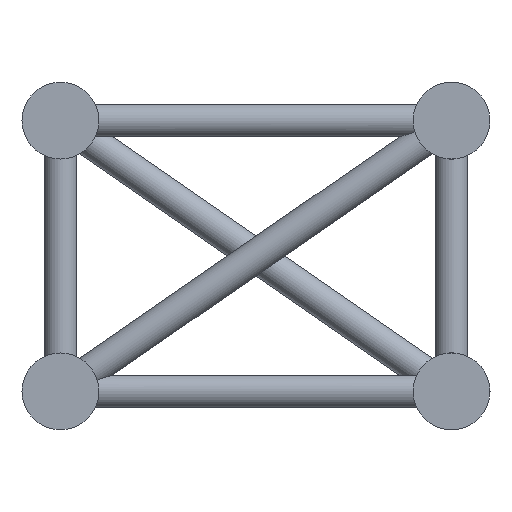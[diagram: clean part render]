
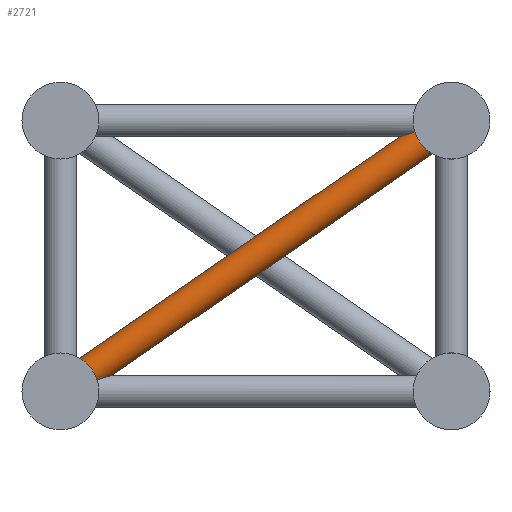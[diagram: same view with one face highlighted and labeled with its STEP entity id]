
A CAD part, left-side view. The second image highlights one B-rep face of the part: STEP entity #2721.
In plain terms, the highlighted cylindrical face has radius 12.5 mm (diameter 25 mm), a full revolution.
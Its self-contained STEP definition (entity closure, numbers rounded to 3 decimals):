
#29=ELLIPSE('',#3017,41.923,12.5);
#30=ELLIPSE('',#3019,41.923,12.5);
#121=FACE_BOUND('',#852,.T.);
#427=CYLINDRICAL_SURFACE('',#3016,12.5);
#573=FACE_OUTER_BOUND('',#851,.T.);
#851=EDGE_LOOP('',(#2075,#2076));
#852=EDGE_LOOP('',(#2077,#2078));
#1107=CIRCLE('',#3018,12.5);
#1108=CIRCLE('',#3020,12.5);
#1295=VERTEX_POINT('',#6344);
#1296=VERTEX_POINT('',#6345);
#1297=VERTEX_POINT('',#6348);
#1298=VERTEX_POINT('',#6349);
#1573=EDGE_CURVE('',#1295,#1296,#29,.T.);
#1574=EDGE_CURVE('',#1296,#1295,#1107,.T.);
#1575=EDGE_CURVE('',#1297,#1298,#30,.T.);
#1576=EDGE_CURVE('',#1298,#1297,#1108,.T.);
#2075=ORIENTED_EDGE('',*,*,#1573,.F.);
#2076=ORIENTED_EDGE('',*,*,#1574,.F.);
#2077=ORIENTED_EDGE('',*,*,#1575,.F.);
#2078=ORIENTED_EDGE('',*,*,#1576,.F.);
#2721=ADVANCED_FACE('',(#573,#121),#427,.T.);
#3016=AXIS2_PLACEMENT_3D('',#6343,#3612,#3613);
#3017=AXIS2_PLACEMENT_3D('',#6346,#3614,#3615);
#3018=AXIS2_PLACEMENT_3D('',#6347,#3616,#3617);
#3019=AXIS2_PLACEMENT_3D('',#6350,#3618,#3619);
#3020=AXIS2_PLACEMENT_3D('',#6351,#3620,#3621);
#3612=DIRECTION('center_axis',(0.,-0.822,
0.569));
#3613=DIRECTION('ref_axis',(1.,0.,0.));
#3614=DIRECTION('center_axis',(0.,0.298,
0.955));
#3615=DIRECTION('ref_axis',(0.,0.955,-0.298));
#3616=DIRECTION('center_axis',(0.,-0.822,
0.569));
#3617=DIRECTION('ref_axis',(1.,0.,0.));
#3618=DIRECTION('center_axis',(0.,-0.298,
-0.955));
#3619=DIRECTION('ref_axis',(0.,0.955,-0.298));
#3620=DIRECTION('center_axis',(0.,0.822,-0.569));
#3621=DIRECTION('ref_axis',(1.,0.,0.));
#6343=CARTESIAN_POINT('Origin',(92.5,278.173,-192.581));
#6344=CARTESIAN_POINT('',(102.177,25.331,-7.913));
#6345=CARTESIAN_POINT('',(82.823,25.331,-7.913));
#6346=CARTESIAN_POINT('Origin',(92.5,0.,
0.));
#6347=CARTESIAN_POINT('Origin',(92.5,20.827,-14.419));
#6348=CARTESIAN_POINT('',(102.177,273.669,-199.087));
#6349=CARTESIAN_POINT('',(82.823,273.669,-199.087));
#6350=CARTESIAN_POINT('Origin',(92.5,299.,-207.));
#6351=CARTESIAN_POINT('Origin',(92.5,278.173,-192.581));
